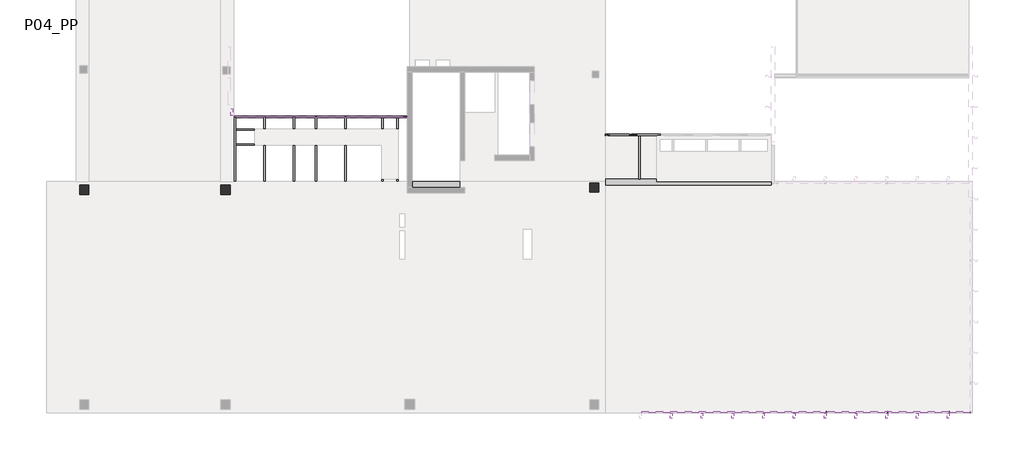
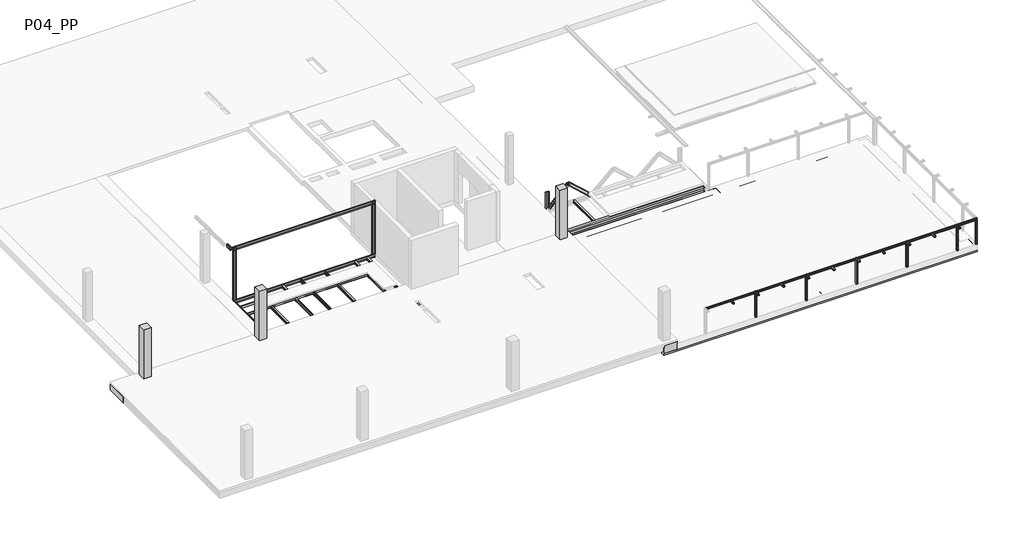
# One storey, part 2 of 5: 49 beams, 12 columns.
"""IFC4 building model written with IfcOpenShell, lengths in millimetres."""

from ifc_helpers import new_model, si_unit, frame, origin, place, context, project, spatial, polyline, outline, extrude, faceted_brep, transform, mapped, element, save
from components import m_hss_rectangular_hss_100x100_d88e7f3c, m_hss_rectangular_hss_100x100_c4b29c07, m_hss_rectangular_hss_200x100_80d761ef, ub_universal_beams_heb300x300_9e54a293, ub_universal_beams_ipe_160x82_5295c27c, ub_universal_beams_ipe_160x82_633517aa, ub_universal_beams_ipe_160x82_7de70bc2, upn120x55_69f0bca1, upn120x55_efc8f615, upn120x55_2e91fe93, upn120x55_dd576345, upn120x55_d7d90911, upn200x75_1e45fa6e, upn200x75_a6df8eeb, upn200x75_f16fdd2e, upn200x75_1c3169bc, rhs_rectangular_hollow_section_column_100x100x5_0rhs_4e292c9f, upn_200x75_6854b640, upn_200x75_6a680606

model = new_model("IFC4")

# Units and contexts
model_context = context("Model", 3, world=origin())
ifc_project = project(units=[si_unit("LENGTHUNIT", "METRE", prefix="MILLI")], contexts=[model_context])

# Site, building, storey
site = spatial("IfcSite", under=ifc_project)
building = spatial("IfcBuilding", under=site)
storey = spatial("IfcBuildingStorey", under=building, Name="P04_PP", Elevation=22410.0)

# Beams
placement = place(None, origin())
element("IfcBeam", 1, ObjectType="M_Concrete-Rectangular Beam : 1500 x 550mm", at=placement, inside=storey, context=model_context, shape_type="Brep", body=[
    faceted_brep([(-10790.2146087, -4560.5861501, 22410.0), (-13390.3216429, -4560.5861501, 22410.0), (-13390.3216429, -4885.1039312, 22410.0), (-10790.2146087, -4885.1039312, 22410.0), (-33190.2931069, -6060.5861501, 21860.0), (-32490.2931069, -6060.5861501, 21860.0), (-31216.2708024, -6060.5861501, 21860.0), (-30816.2708024, -6060.5861501, 21860.0), (-29549.6041367, -6060.5861501, 21860.0), (-29149.6041367, -6060.5861501, 21860.0), (-27882.9374731, -6060.5861501, 21860.0), (-27482.9374731, -6060.5861501, 21860.0), (-26216.2708089, -6060.5861501, 21860.0), (-25816.2708089, -6060.5861501, 21860.0), (-24549.6041453, -6060.5861501, 21860.0), (-24149.6041453, -6060.5861501, 21860.0), (-22882.9374805, -6060.5861501, 21860.0), (-22482.9374805, -6060.5861501, 21860.0), (-21216.2708168, -6060.5861501, 21860.0), (-20816.2708168, -6060.5861501, 21860.0), (-19549.6041539, -6060.5861501, 21860.0), (-19149.6041539, -6060.5861501, 21860.0), (-17882.9374898, -6060.5861501, 21860.0), (-17482.9374898, -6060.5861501, 21860.0), (-16216.2708252, -6060.5861501, 21860.0), (-15816.2708252, -6060.5861501, 21860.0), (-14549.604161, -6060.5861501, 21860.0), (-14149.604161, -6060.5861501, 21860.0), (-12882.9374977, -6060.5861501, 21860.0), (-12482.9374977, -6060.5861501, 21860.0), (-11216.2708336, -6060.5861501, 21860.0), (-10816.2708336, -6060.5861501, 21860.0), (-9549.6041702, -6060.5861501, 21860.0), (-9149.6041702, -6060.5861501, 21860.0), (-7882.9375051, -6060.5861501, 21860.0), (-7482.9375051, -6060.5861501, 21860.0), (-6216.2708415, -6060.5861501, 21860.0), (-5816.2708415, -6060.5861501, 21860.0), (-4549.6041777, -6060.5861501, 21860.0), (-4149.6041777, -6060.5861501, 21860.0), (-3763.6636999, -6060.5861501, 21860.0), (-2913.6343046, -6060.5861501, 21860.0), (-2913.6343046, -6060.5861501, 22260.0), (-3763.6636999, -6060.5861501, 22260.0), (-4149.6041777, -6060.5861501, 22260.0), (-4549.6041777, -6060.5861501, 22260.0), (-5816.2708415, -6060.5861501, 22260.0), (-6216.2708415, -6060.5861501, 22260.0), (-7482.9375051, -6060.5861501, 22260.0), (-7882.9375051, -6060.5861501, 22260.0), (-9149.6041702, -6060.5861501, 22260.0), (-9549.6041702, -6060.5861501, 22260.0), (-10816.2708336, -6060.5861501, 22260.0), (-11216.2708336, -6060.5861501, 22260.0), (-12482.9374977, -6060.5861501, 22260.0), (-12882.9374977, -6060.5861501, 22260.0), (-14149.604161, -6060.5861501, 22260.0), (-14549.604161, -6060.5861501, 22260.0), (-15816.2708252, -6060.5861501, 22260.0), (-16216.2708252, -6060.5861501, 22260.0), (-17482.9374898, -6060.5861501, 22260.0), (-17882.9374898, -6060.5861501, 22260.0), (-19149.6041539, -6060.5861501, 22260.0), (-19549.6041539, -6060.5861501, 22260.0), (-20816.2708168, -6060.5861501, 22260.0), (-21216.2708168, -6060.5861501, 22260.0), (-22482.9374805, -6060.5861501, 22260.0), (-22882.9374805, -6060.5861501, 22260.0), (-24149.6041453, -6060.5861501, 22260.0), (-24549.6041453, -6060.5861501, 22260.0), (-25816.2708089, -6060.5861501, 22260.0), (-26216.2708089, -6060.5861501, 22260.0), (-27482.9374731, -6060.5861501, 22260.0), (-27882.9374731, -6060.5861501, 22260.0), (-29149.6041367, -6060.5861501, 22260.0), (-29549.6041367, -6060.5861501, 22260.0), (-30816.2708024, -6060.5861501, 22260.0), (-31216.2708024, -6060.5861501, 22260.0), (-32490.2931069, -6060.5861501, 22260.0), (-33190.2931069, -6060.5861501, 22260.0), (-33190.2931069, -4560.5861501, 21860.0), (-13640.3216429, -4560.5861501, 21860.0), (-13640.3216429, -5185.1039323, 21860.0), (-10540.3248425, -5185.1039323, 21860.0), (-10540.3248425, -4885.1039323, 21860.0), (-13390.3216429, -4885.1039323, 21860.0), (-13390.3216429, -4560.5861501, 21860.0), (-3816.6336941, -4560.5861501, 21860.0), (-3816.6336941, -5260.5861501, 21860.0), (-2913.6343046, -5260.5861501, 21860.0), (-23241.1836358, -5310.5863897, 21860.0), (-23241.1836357, -4760.5863897, 21860.0), (-23791.1836357, -4760.5863896, 21860.0), (-23791.1836358, -5310.5863896, 21860.0), (-30841.2256035, -5310.5863916, 21860.0), (-30841.2256052, -4760.5863916, 21860.0), (-31391.2256052, -4760.5863933, 21860.0), (-31391.2256035, -5310.5863933, 21860.0), (-13390.3216429, -4560.5861501, 22110.0542339), (-13640.3216429, -4560.5861501, 22110.0542339), (-33190.2931069, -4560.5861501, 22260.0), (-13390.3216429, -4560.5861501, 22260.0), (-10790.2146087, -4560.5861501, 22260.0), (-2913.6343046, -4560.5861501, 22260.0), (-2913.6343046, -4560.5861501, 22110.0), (-3763.6343046, -4560.5861501, 22110.0), (-3816.6336941, -4560.5861501, 22110.0), (-3816.6336937, -5260.5861501, 22110.0), (-3816.6336945, -4610.3980176, 22110.0), (-3816.6336939, -5160.3980176, 22110.0), (-2913.6343046, -5260.5861501, 22110.0), (-3763.6636999, -5260.5861501, 22110.0), (-23241.1836358, -5310.5863897, 22110.0), (-23241.1836357, -4760.5863897, 22110.0), (-23791.1836358, -5310.5863896, 22110.0), (-23791.1836357, -4760.5863896, 22110.0), (-30841.2256035, -5310.5863916, 22110.0), (-30841.2256052, -4760.5863916, 22110.0), (-31391.2256035, -5310.5863933, 22110.0), (-31391.2256052, -4760.5863933, 22110.0), (-10540.3248425, -4885.1039323, 22110.0542339), (-13390.3216429, -4885.1039323, 22110.0542339), (-13640.3216429, -5185.1039323, 22110.0542339), (-10540.3248425, -5185.1039323, 22110.0542339), (-13640.3216429, -4885.1039323, 22110.0542339), (-13390.3216429, -4885.1039312, 22260.0), (-10790.2146087, -4885.1039312, 22260.0)], [[[0, 1, 2, 3]], [[4, 5, 6, 7, 8, 9, 10, 11, 12, 13, 14, 15, 16, 17, 18, 19, 20, 21, 22, 23, 24, 25, 26, 27, 28, 29, 30, 31, 32, 33, 34, 35, 36, 37, 38, 39, 40, 41, 42, 43, 44, 45, 46, 47, 48, 49, 50, 51, 52, 53, 54, 55, 56, 57, 58, 59, 60, 61, 62, 63, 64, 65, 66, 67, 68, 69, 70, 71, 72, 73, 74, 75, 76, 77, 78, 79]], [[4, 80, 81, 82, 83, 84, 85, 86, 87, 88, 89, 41, 40, 39, 38, 37, 36, 35, 34, 33, 32, 31, 30, 29, 28, 27, 26, 25, 24, 23, 22, 21, 20, 19, 18, 17, 16, 15, 14, 13, 12, 11, 10, 9, 8, 7, 6, 5], [90, 91, 92, 93], [94, 95, 96, 97]], [[86, 98, 99, 81, 80, 100, 101, 1, 0, 102, 103, 104, 105, 106, 87]], [[80, 4, 79, 100]], [[107, 88, 87, 106, 108, 109]], [[106, 105, 104, 110, 111, 107, 109, 108]], [[112, 113, 91, 90]], [[114, 112, 90, 93]], [[115, 114, 93, 92]], [[113, 115, 92, 91]], [[113, 112, 114, 115]], [[116, 117, 95, 94]], [[118, 116, 94, 97]], [[119, 118, 97, 96]], [[117, 119, 96, 95]], [[117, 116, 118, 119]], [[84, 120, 121, 85]], [[122, 123, 83, 82]], [[123, 122, 124, 99, 98, 121, 120]], [[123, 120, 84, 83]], [[122, 82, 81, 99, 124]], [[121, 98, 86, 85]], [[41, 89, 110, 104, 103, 42]], [[89, 88, 107, 111, 110]], [[125, 101, 100, 79, 78, 77, 76, 75, 74, 73, 72, 71, 70, 69, 68, 67, 66, 65, 64, 63, 62, 61, 60, 59, 58, 57, 56, 55, 54, 53, 52, 51, 50, 49, 48, 47, 46, 45, 44, 43, 42, 103, 102, 126]], [[126, 102, 0, 3]], [[101, 125, 2, 1]], [[125, 126, 3, 2]]]),
])
element("IfcBeam", 2, ObjectType="M_Concrete-Rectangular Beam : 400 x 550mm", at=placement, inside=storey, context=model_context, shape_type="SweptSolid", body=[
    extrude(outline(polyline([(-16216.2708252, -6060.5861501), (-15816.2708252, -6060.5861501), (-15816.2708252, -15610.5871866), (-16216.2708252, -15610.5871866), (-16216.2708252, -6060.5861501)])), frame((0.0, 0.0, 21860.0), z_axis=(0.0, 0.0, 1.0), x_axis=(1.0, 0.0, 0.0)), (0.0, 0.0, 1.0), 400.0),
])
element("IfcBeam", 3, ObjectType="M_Concrete-Rectangular Beam : 400 x 550mm", at=placement, inside=storey, context=model_context, shape_type="SweptSolid", body=[
    extrude(outline(polyline([(-14549.604161, -6060.5861501), (-14149.604161, -6060.5861501), (-14149.604161, -15610.5871866), (-14549.604161, -15610.5871866), (-14549.604161, -6060.5861501)])), frame((0.0, 0.0, 21860.0), z_axis=(0.0, 0.0, 1.0), x_axis=(1.0, 0.0, 0.0)), (0.0, 0.0, 1.0), 400.0),
])
element("IfcBeam", 4, ObjectType="M_Concrete-Rectangular Beam : 400 x 550mm", at=placement, inside=storey, context=model_context, shape_type="SweptSolid", body=[
    extrude(outline(polyline([(-12882.9374977, -6060.5861501), (-12482.9374977, -6060.5861501), (-12482.9374977, -15610.5871866), (-12882.9374977, -15610.5871866), (-12882.9374977, -6060.5861501)])), frame((0.0, 0.0, 21860.0), z_axis=(0.0, 0.0, 1.0), x_axis=(1.0, 0.0, 0.0)), (0.0, 0.0, 1.0), 400.0),
])
element("IfcBeam", 5, ObjectType="M_Concrete-Rectangular Beam : 400 x 550mm", at=placement, inside=storey, context=model_context, shape_type="SweptSolid", body=[
    extrude(outline(polyline([(-11216.2708336, -6060.5861501), (-10816.2708336, -6060.5861501), (-10816.2708336, -15610.5871866), (-11216.2708336, -15610.5871866), (-11216.2708336, -6060.5861501)])), frame((0.0, 0.0, 21860.0), z_axis=(0.0, 0.0, 1.0), x_axis=(1.0, 0.0, 0.0)), (0.0, 0.0, 1.0), 400.0),
])
element("IfcBeam", 6, ObjectType="M_Concrete-Rectangular Beam : 400 x 550mm", at=placement, inside=storey, context=model_context, shape_type="SweptSolid", body=[
    extrude(outline(polyline([(-9549.6041702, -6060.5861501), (-9149.6041702, -6060.5861501), (-9149.6041702, -15610.5871866), (-9549.6041702, -15610.5871866), (-9549.6041702, -6060.5861501)])), frame((0.0, 0.0, 21860.0), z_axis=(0.0, 0.0, 1.0), x_axis=(1.0, 0.0, 0.0)), (0.0, 0.0, 1.0), 400.0),
])
element("IfcBeam", 7, ObjectType="M_Concrete-Rectangular Beam : 400 x 550mm", at=placement, inside=storey, context=model_context, shape_type="SweptSolid", body=[
    extrude(outline(polyline([(-7882.9375051, -6060.5861501), (-7482.9375051, -6060.5861501), (-7482.9375051, -15610.5871866), (-7882.9375051, -15610.5871866), (-7882.9375051, -6060.5861501)])), frame((0.0, 0.0, 21860.0), z_axis=(0.0, 0.0, 1.0), x_axis=(1.0, 0.0, 0.0)), (0.0, 0.0, 1.0), 400.0),
])
element("IfcBeam", 8, ObjectType="M_Concrete-Rectangular Beam : 400 x 550mm", at=placement, inside=storey, context=model_context, shape_type="SweptSolid", body=[
    extrude(outline(polyline([(-6216.2708415, -6060.5861501), (-5816.2708415, -6060.5861501), (-5816.2708415, -15610.5871866), (-6216.2708415, -15610.5871866), (-6216.2708415, -6060.5861501)])), frame((0.0, 0.0, 21860.0), z_axis=(0.0, 0.0, 1.0), x_axis=(1.0, 0.0, 0.0)), (0.0, 0.0, 1.0), 400.0),
])
element("IfcBeam", 9, ObjectType="M_Concrete-Rectangular Beam : 400 x 550mm", at=placement, inside=storey, context=model_context, shape_type="SweptSolid", body=[
    extrude(outline(polyline([(-4549.6041777, -6060.5861501), (-4149.6041777, -6060.5861501), (-4149.6041777, -15610.5871866), (-4549.6041777, -15610.5871866), (-4549.6041777, -6060.5861501)])), frame((0.0, 0.0, 21860.0), z_axis=(0.0, 0.0, 1.0), x_axis=(1.0, 0.0, 0.0)), (0.0, 0.0, 1.0), 400.0),
])
element("IfcBeam", 10, ObjectType="M_Concrete-Rectangular Beam : 700 x 500mm", at=placement, inside=storey, context=model_context, shape_type="Brep", body=[
    faceted_brep([(-3816.6336782, -17110.5871866, 22110.0), (-3763.6636999, -17110.5871866, 22110.0), (-3763.6636999, -16910.5863397, 22110.0), (-3816.6336782, -16910.5863397, 22110.0), (-2913.6636999, -17110.5871866, 21710.0), (-3763.6636999, -17110.5871866, 21710.0), (-3816.6336782, -17110.5871866, 21860.0), (-3816.6336782, -17110.5871866, 21610.0), (16958.7687141, -17110.5871866, 21610.0), (16958.7687141, -17110.5871866, 22110.0), (-2913.6636999, -17110.5871866, 22110.0), (6734.6784228, -16910.586328, 21610.0), (6734.6784217, -16410.5871866, 21610.0), (16258.7685986, -16410.5871866, 21610.0), (16258.7685985, -16910.5878349, 21610.0), (16758.7685985, -16910.5878349, 21610.0), (16758.7685986, -16410.5871866, 21610.0), (16958.7687141, -16410.5871866, 21610.0), (-3816.6336782, -16910.5863397, 21610.0), (-3266.6336782, -16910.5863398, 21610.0), (-3266.6336781, -16410.5871866, 21610.0), (6234.6784217, -16410.5871866, 21610.0), (6234.6784228, -16910.5863291, 21610.0), (6234.6784217, -16410.5871866, 22110.0), (-3266.6336781, -16410.5871866, 21710.0), (-2913.6636999, -16410.5871866, 21710.0), (-2913.6636999, -16410.5871866, 22110.0), (6734.6784228, -16910.586328, 22110.0), (6734.6784217, -16410.5871866, 22110.0), (6234.6784228, -16910.5863291, 22110.0), (16258.7685986, -16410.5871866, 22110.0), (16258.7685985, -16910.5878349, 22110.0), (16758.7685985, -16910.5878349, 22110.0), (-3266.6336782, -16910.5863398, 21710.0), (-3763.6636999, -16910.5863397, 21710.0), (16958.7687141, -16410.5871866, 22110.0), (16758.7685986, -16410.5871866, 22110.0)], [[[0, 1, 2, 3]], [[4, 5, 1, 0, 6, 7, 8, 9, 10]], [[11, 12, 13, 14, 15, 16, 17, 8, 7, 18, 19, 20, 21, 22]], [[23, 21, 20, 24, 25, 26]], [[12, 11, 27, 28]], [[22, 21, 23, 29]], [[14, 13, 30, 31]], [[27, 11, 22, 29]], [[14, 31, 32, 15]], [[12, 28, 30, 13]], [[4, 25, 24, 33, 34, 5]], [[25, 4, 10, 26]], [[1, 5, 34, 2]], [[28, 27, 29, 23, 26, 10, 9, 35, 36, 32, 31, 30]], [[19, 33, 24, 20]], [[33, 19, 18, 3, 2, 34]], [[7, 6, 0, 3, 18]], [[35, 9, 8, 17]], [[15, 32, 36, 16]], [[35, 17, 16, 36]]]),
])
element("IfcBeam", 11, ObjectType="M_Concrete-Rectangular Beam : 700 x 500mm", at=placement, inside=storey, context=model_context, shape_type="Brep", body=[
    faceted_brep([(-3816.6336941, -4560.5861501, 22110.0), (-3816.6336941, -4610.3980176, 22110.0), (-3763.6636999, -4610.3980175, 22110.0), (-3763.6636999, -4560.5861501, 22110.0), (6258.8308537, -5260.5861501, 21610.0), (6258.8308537, -5260.5861501, 22110.0), (-2913.6636999, -5260.5861501, 22110.0), (-2913.6636999, -5260.5861501, 21710.0), (-3763.6636999, -5260.5861501, 21710.0), (-3763.6636999, -5260.5861501, 22110.0), (-3816.6336941, -5260.5861501, 22110.0), (-3816.6336941, -5260.5861501, 21860.0), (-3816.6336941, -5260.5861501, 21610.0), (16258.7687141, -4560.5861501, 21610.0), (16258.7687141, -4760.6066112, 21610.0), (16258.7687141, -5260.5861501, 21610.0), (6758.8308537, -5260.5861501, 21610.0), (6758.8308538, -4760.6051135, 21610.0), (6258.8308538, -4760.6051134, 21610.0), (-3816.6336941, -5160.3980176, 21610.0), (-3266.6336939, -5160.398017, 21610.0), (-3266.6336945, -4610.398017, 21610.0), (-3816.6336941, -4610.3980176, 21610.0), (-3816.6336941, -4560.5861501, 21610.0), (16258.7687141, -4560.5861501, 22110.0), (-3816.6336941, -4560.5861501, 21860.0), (-3763.6636999, -4560.5861501, 21860.0), (-3763.6636999, -4560.5861501, 21710.0), (-2913.6636999, -4560.5861501, 21710.0), (-2913.6636999, -4560.5861501, 21860.0), (-2913.6636999, -4560.5861501, 22110.0), (16258.7687141, -4760.6066112, 22110.0), (16258.7687141, -5260.5861501, 22110.0), (6758.8308537, -5260.5861501, 22110.0), (6758.8308538, -4760.6051135, 22110.0), (6258.8308538, -4760.6051134, 22110.0), (-3266.6336939, -5160.398017, 21710.0), (-3266.6336945, -4610.398017, 21710.0), (-3816.6336941, -5160.3980176, 22110.0), (-3763.6636999, -5160.3980175, 22110.0), (-3763.6635239, -5160.3980175, 21860.0), (-3763.6635239, -5160.3980175, 21710.0), (-3763.6636999, -4610.3980175, 21710.0), (-3763.6635239, -4610.3980175, 21860.0)], [[[0, 1, 2, 3]], [[4, 5, 6, 7, 8, 9, 10, 11, 12]], [[13, 14, 15, 16, 17, 18, 4, 12, 19, 20, 21, 22, 23]], [[24, 13, 23, 25, 0, 3, 26, 27, 28, 29, 30]], [[24, 31, 32, 15, 14, 13]], [[17, 16, 33, 34]], [[4, 18, 35, 5]], [[35, 18, 17, 34]], [[21, 20, 36, 37]], [[20, 19, 38, 39, 40, 41, 36]], [[22, 21, 37, 42, 43, 2, 1]], [[28, 7, 6, 30, 29]], [[15, 32, 33, 16]], [[7, 28, 27, 42, 37, 36, 41, 8]], [[42, 27, 26, 3, 2, 43]], [[38, 10, 9, 39]], [[32, 31, 24, 30, 6, 5, 35, 34, 33]], [[8, 41, 40, 39, 9]], [[0, 25, 23, 22, 1]], [[12, 11, 10, 38, 19]]]),
])
element("IfcBeam", 12, ObjectType="M_Concrete-Rectangular Beam : 850 x 700mm", at=placement, inside=storey, context=model_context, shape_type="Brep", body=[
    faceted_brep([(-3763.6636999, -4560.5861501, 21860.0), (-3763.6636999, -4560.5861501, 21710.0), (-3763.6636999, -4610.3980175, 21710.0), (-3763.6636999, -4610.3980175, 21860.0), (-2913.6636999, -4560.5861501, 21710.0), (-2913.6636999, -5260.5861501, 21710.0), (-2913.6636999, -16410.5871866, 21710.0), (-2913.6636999, -17110.5871866, 21710.0), (-3763.6636999, -17110.5871866, 21710.0), (-3763.6636999, -16910.5863397, 21710.0), (-3266.6336782, -16910.5863398, 21710.0), (-3266.6336781, -16410.5871866, 21710.0), (-3266.6336781, -16360.5863398, 21710.0), (-3763.6636999, -16360.5863397, 21710.0), (-3763.6636999, -5260.5861501, 21710.0), (-3763.6636999, -5160.3980175, 21710.0), (-3266.6336939, -5160.398017, 21710.0), (-3266.6336945, -4610.398017, 21710.0), (-2913.6636999, -4560.5861501, 21860.0), (-2913.6636999, -6060.5861501, 21860.0), (-2913.6636999, -6060.5861501, 22260.0), (-2913.6636999, -17110.5871866, 22260.0), (-2913.6636999, -17110.5871866, 22110.0), (-3763.6636999, -6060.5861501, 21860.0), (-3763.6636999, -6060.5861501, 22260.0), (-3266.6336945, -4610.398017, 21860.0), (-3266.6336939, -5160.398017, 21860.0), (-3763.6636999, -5160.3980175, 21860.0), (-3763.6636999, -16910.5863397, 22110.0), (-3266.6336782, -16910.5863398, 22110.0), (-3266.6336781, -16360.5863398, 22110.0), (-3763.6636999, -16360.5863397, 22110.0), (-3763.6636999, -16360.5863397, 21860.0), (-3763.6636999, -17110.5871866, 22260.0), (-3763.6636999, -17110.5871866, 22110.0), (-3763.6636999, -15610.5871866, 22260.0)], [[[0, 1, 2, 3]], [[1, 4, 5, 6, 7, 8, 9, 10, 11, 12, 13, 14, 15, 16, 17, 2]], [[18, 19, 20, 21, 22, 7, 6, 5, 4]], [[4, 1, 0, 18]], [[19, 23, 24, 20]], [[18, 0, 3, 25, 26, 27, 23, 19]], [[28, 29, 10, 9]], [[30, 31, 32, 13, 12]], [[30, 29, 28, 31]], [[8, 7, 22, 21, 33, 34]], [[16, 15, 27, 26]], [[2, 17, 25, 3]], [[29, 30, 12, 11, 10]], [[25, 17, 16, 26]], [[9, 8, 34, 33, 35, 24, 23, 27, 15, 14, 13, 32, 31, 28]], [[21, 20, 24, 35, 33]]]),
])
m_hss_rectangular_hss_100x100_shape = m_hss_rectangular_hss_100x100_d88e7f3c(model_context)
element("IfcBeam", 13, ObjectType="M_HSS Rectangular : HSS 100x100", at=placement, inside=storey, context=model_context, shape_type="MappedRepresentation", body=[
    mapped(m_hss_rectangular_hss_100x100_shape, transform((7946.7216588, -17060.5808776, 23860.0), x_axis=(0.9999999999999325, -3.676253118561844e-07, 0.0), y_axis=(3.676253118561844e-07, 0.9999999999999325, 0.0), z_axis=(0.0, 0.0, 1.0))),
])
m_hss_rectangular_hss_100x100_2_shape = m_hss_rectangular_hss_100x100_c4b29c07(model_context)
element("IfcBeam", 14, ObjectType="M_HSS Rectangular : HSS 100x100", at=placement, inside=storey, context=model_context, shape_type="MappedRepresentation", body=[
    mapped(m_hss_rectangular_hss_100x100_2_shape, transform((15651.3929722, -17225.5845792, 23860.0), x_axis=(1.2959202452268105e-06, -0.9999999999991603, 0.0), y_axis=(0.9999999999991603, 1.2959202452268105e-06, 0.0), z_axis=(0.0, 0.0, 1.0))),
])
element("IfcBeam", 15, ObjectType="M_HSS Rectangular : HSS 100x100", at=placement, inside=storey, context=model_context, shape_type="MappedRepresentation", body=[
    mapped(m_hss_rectangular_hss_100x100_2_shape, transform((12318.0506883, -17225.5845792, 23860.0), x_axis=(1.2959202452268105e-06, -0.9999999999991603, 0.0), y_axis=(0.9999999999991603, 1.2959202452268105e-06, 0.0), z_axis=(0.0, 0.0, 1.0))),
])
element("IfcBeam", 16, ObjectType="M_HSS Rectangular : HSS 100x100", at=placement, inside=storey, context=model_context, shape_type="MappedRepresentation", body=[
    mapped(m_hss_rectangular_hss_100x100_2_shape, transform((8984.7084045, -17225.5845792, 23860.0), x_axis=(1.2959202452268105e-06, -0.9999999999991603, 0.0), y_axis=(0.9999999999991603, 1.2959202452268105e-06, 0.0), z_axis=(0.0, 0.0, 1.0))),
])
element("IfcBeam", 17, ObjectType="M_HSS Rectangular : HSS 100x100", at=placement, inside=storey, context=model_context, shape_type="MappedRepresentation", body=[
    mapped(m_hss_rectangular_hss_100x100_2_shape, transform((5651.3661206, -17225.5845792, 23860.0), x_axis=(1.2959202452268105e-06, -0.9999999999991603, 0.0), y_axis=(0.9999999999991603, 1.2959202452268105e-06, 0.0), z_axis=(0.0, 0.0, 1.0))),
])
element("IfcBeam", 18, ObjectType="M_HSS Rectangular : HSS 100x100", at=placement, inside=storey, context=model_context, shape_type="MappedRepresentation", body=[
    mapped(m_hss_rectangular_hss_100x100_2_shape, transform((2318.0238368, -17225.5845792, 23860.0), x_axis=(1.2959202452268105e-06, -0.9999999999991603, 0.0), y_axis=(0.9999999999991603, 1.2959202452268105e-06, 0.0), z_axis=(0.0, 0.0, 1.0))),
])
element("IfcBeam", 19, ObjectType="M_HSS Rectangular : HSS 100x100", at=placement, inside=storey, context=model_context, shape_type="MappedRepresentation", body=[
    mapped(m_hss_rectangular_hss_100x100_2_shape, transform((13984.7218302, -17225.5845792, 23860.0), x_axis=(1.2959202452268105e-06, -0.9999999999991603, 0.0), y_axis=(0.9999999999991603, 1.2959202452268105e-06, 0.0), z_axis=(0.0, 0.0, 1.0))),
])
element("IfcBeam", 20, ObjectType="M_HSS Rectangular : HSS 100x100", at=placement, inside=storey, context=model_context, shape_type="MappedRepresentation", body=[
    mapped(m_hss_rectangular_hss_100x100_2_shape, transform((10651.3795464, -17225.5845792, 23860.0), x_axis=(1.2959202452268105e-06, -0.9999999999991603, 0.0), y_axis=(0.9999999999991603, 1.2959202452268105e-06, 0.0), z_axis=(0.0, 0.0, 1.0))),
])
element("IfcBeam", 21, ObjectType="M_HSS Rectangular : HSS 100x100", at=placement, inside=storey, context=model_context, shape_type="MappedRepresentation", body=[
    mapped(m_hss_rectangular_hss_100x100_2_shape, transform((7318.0372626, -17225.5845792, 23860.0), x_axis=(1.2959202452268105e-06, -0.9999999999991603, 0.0), y_axis=(0.9999999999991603, 1.2959202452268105e-06, 0.0), z_axis=(0.0, 0.0, 1.0))),
])
element("IfcBeam", 22, ObjectType="M_HSS Rectangular : HSS 100x100", at=placement, inside=storey, context=model_context, shape_type="MappedRepresentation", body=[
    mapped(m_hss_rectangular_hss_100x100_2_shape, transform((3984.6949787, -17225.5845792, 23860.0), x_axis=(1.2959202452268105e-06, -0.9999999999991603, 0.0), y_axis=(0.9999999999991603, 1.2959202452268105e-06, 0.0), z_axis=(0.0, 0.0, 1.0))),
])
element("IfcBeam", 23, ObjectType="M_HSS Rectangular : HSS 100x100", at=placement, inside=storey, context=model_context, shape_type="MappedRepresentation", body=[
    mapped(m_hss_rectangular_hss_100x100_2_shape, transform((651.3526949, -17225.5845792, 23860.0), x_axis=(1.2959202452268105e-06, -0.9999999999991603, 0.0), y_axis=(0.9999999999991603, 1.2959202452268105e-06, 0.0), z_axis=(0.0, 0.0, 1.0))),
])
m_hss_rectangular_hss_200x100_shape = m_hss_rectangular_hss_200x100_80d761ef(model_context)
element("IfcBeam", 24, ObjectType="M_HSS Rectangular : HSS 200x100", at=placement, inside=storey, context=model_context, shape_type="MappedRepresentation", body=[
    mapped(m_hss_rectangular_hss_200x100_shape, transform((-23160.3171618, -812.6043939, 26060.0), x_axis=(0.0, -1.0, 0.0), y_axis=(1.0, 0.0, 0.0), z_axis=(0.0, 0.0, 1.0))),
])
ub_universal_beams_heb300x300_shape = ub_universal_beams_heb300x300_9e54a293(model_context)
element("IfcBeam", 25, ObjectType="UB-Universal Beams : HEB300x300", at=placement, inside=storey, context=model_context, shape_type="MappedRepresentation", body=[
    mapped(ub_universal_beams_heb300x300_shape, transform((1360.0966728, -4590.5861501, 22260.0), x_axis=(-1.0, 0.0, 0.0), y_axis=(0.0, -1.0, 0.0), z_axis=(0.0, 0.0, 1.0))),
])
ub_universal_beams_ipe_160x82_shape = ub_universal_beams_ipe_160x82_5295c27c(model_context)
element("IfcBeam", 26, ObjectType="UB-Universal Beams : IPE 160x82", at=placement, inside=storey, context=model_context, shape_type="MappedRepresentation", body=[
    mapped(ub_universal_beams_ipe_160x82_shape, transform((-14190.4459331, -3192.6367352, 22330.0), x_axis=(0.0, 1.0, 0.0), y_axis=(-1.0, 0.0, 0.0), z_axis=(0.0, 0.0, 1.0))),
])
element("IfcBeam", 27, ObjectType="UB-Universal Beams : IPE 160x82", at=placement, inside=storey, context=model_context, shape_type="MappedRepresentation", body=[
    mapped(ub_universal_beams_ipe_160x82_shape, transform((-14990.4459326, -3192.6367225, 22330.0), x_axis=(0.0, 1.0, 0.0), y_axis=(-1.0, 0.0, 0.0), z_axis=(0.0, 0.0, 1.0))),
])
element("IfcBeam", 28, ObjectType="UB-Universal Beams : IPE 160x82", at=placement, inside=storey, context=model_context, shape_type="MappedRepresentation", body=[
    mapped(ub_universal_beams_ipe_160x82_shape, transform((-16990.4459316, -3192.6366908, 22330.0), x_axis=(0.0, 1.0, 0.0), y_axis=(-1.0, 0.0, 0.0), z_axis=(0.0, 0.0, 1.0))),
])
element("IfcBeam", 29, ObjectType="UB-Universal Beams : IPE 160x82", at=placement, inside=storey, context=model_context, shape_type="MappedRepresentation", body=[
    mapped(ub_universal_beams_ipe_160x82_shape, transform((-18590.4459308, -3192.6366654, 22330.0), x_axis=(0.0, 1.0, 0.0), y_axis=(-1.0, 0.0, 0.0), z_axis=(0.0, 0.0, 1.0))),
])
element("IfcBeam", 30, ObjectType="UB-Universal Beams : IPE 160x82", at=placement, inside=storey, context=model_context, shape_type="MappedRepresentation", body=[
    mapped(ub_universal_beams_ipe_160x82_shape, transform((-19790.4459314, -3192.6366464, 22330.0), x_axis=(0.0, 1.0, 0.0), y_axis=(-1.0, 0.0, 0.0), z_axis=(0.0, 0.0, 1.0))),
])
element("IfcBeam", 31, ObjectType="UB-Universal Beams : IPE 160x82", at=placement, inside=storey, context=model_context, shape_type="MappedRepresentation", body=[
    mapped(ub_universal_beams_ipe_160x82_shape, transform((-21390.4459306, -3192.636621, 22330.0), x_axis=(0.0, 1.0, 0.0), y_axis=(-1.0, 0.0, 0.0), z_axis=(0.0, 0.0, 1.0))),
])
ub_universal_beams_ipe_160x82_2_shape = ub_universal_beams_ipe_160x82_633517aa(model_context)
element("IfcBeam", 32, ObjectType="UB-Universal Beams : IPE 160x82", at=placement, inside=storey, context=model_context, shape_type="MappedRepresentation", body=[
    mapped(ub_universal_beams_ipe_160x82_2_shape, transform((-22991.1860553, -3192.6365957, 22330.0), x_axis=(0.0, 1.0, 0.0), y_axis=(-1.0, 0.0, 0.0), z_axis=(0.0, 0.0, 1.0))),
])
ub_universal_beams_ipe_160x82_3_shape = ub_universal_beams_ipe_160x82_7de70bc2(model_context)
element("IfcBeam", 33, ObjectType="UB-Universal Beams : IPE 160x82", at=placement, inside=storey, context=model_context, shape_type="MappedRepresentation", body=[
    mapped(ub_universal_beams_ipe_160x82_3_shape, transform((-1067.7389197, -3333.1913864, 22330.0), x_axis=(3.499064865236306e-06, 0.9999999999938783, 0.0), y_axis=(-0.9999999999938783, 3.499064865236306e-06, 0.0), z_axis=(0.0, 0.0, 1.0))),
])
upn120x55_shape = upn120x55_69f0bca1(model_context)
element("IfcBeam", 34, ObjectType="M_MC Shapes : UPN120x55", at=placement, inside=storey, context=model_context, shape_type="MappedRepresentation", body=[
    mapped(upn120x55_shape, transform((-14590.4459328, -1772.1875003, 22350.0), x_axis=(0.9999999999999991, -4.319868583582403e-08, 0.0), y_axis=(4.319868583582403e-08, 0.9999999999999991, 0.0), z_axis=(0.0, 0.0, 1.0))),
])
element("IfcBeam", 35, ObjectType="M_MC Shapes : UPN120x55", at=placement, inside=storey, context=model_context, shape_type="MappedRepresentation", body=[
    mapped(upn120x55_shape, transform((-14590.4459328, -2572.1874803, 22350.0), x_axis=(0.9999999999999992, -4.0441322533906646e-08, 0.0), y_axis=(4.0441322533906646e-08, 0.9999999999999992, 0.0), z_axis=(0.0, 0.0, 1.0))),
])
upn120x55_2_shape = upn120x55_efc8f615(model_context)
element("IfcBeam", 36, ObjectType="M_MC Shapes : UPN120x55", at=placement, inside=storey, context=model_context, shape_type="MappedRepresentation", body=[
    mapped(upn120x55_2_shape, transform((-15990.4459321, -2572.1874237, 22350.0), x_axis=(0.9999999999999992, -4.0441322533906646e-08, 0.0), y_axis=(4.0441322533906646e-08, 0.9999999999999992, 0.0), z_axis=(0.0, 0.0, 1.0))),
])
element("IfcBeam", 37, ObjectType="M_MC Shapes : UPN120x55", at=placement, inside=storey, context=model_context, shape_type="MappedRepresentation", body=[
    mapped(upn120x55_2_shape, transform((-15990.4459321, -1772.1874398, 22350.0), x_axis=(0.9999999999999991, -4.319868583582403e-08, 0.0), y_axis=(4.319868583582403e-08, 0.9999999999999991, 0.0), z_axis=(0.0, 0.0, 1.0))),
])
upn120x55_3_shape = upn120x55_2e91fe93(model_context)
element("IfcBeam", 38, ObjectType="M_MC Shapes : UPN120x55", at=placement, inside=storey, context=model_context, shape_type="MappedRepresentation", body=[
    mapped(upn120x55_3_shape, transform((-20590.445931, -2572.1872377, 22350.0), x_axis=(0.9999999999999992, -4.0441322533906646e-08, 0.0), y_axis=(4.0441322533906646e-08, 0.9999999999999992, 0.0), z_axis=(0.0, 0.0, 1.0))),
])
element("IfcBeam", 39, ObjectType="M_MC Shapes : UPN120x55", at=placement, inside=storey, context=model_context, shape_type="MappedRepresentation", body=[
    mapped(upn120x55_3_shape, transform((-17790.4459312, -2572.1873509, 22350.0), x_axis=(0.9999999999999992, -4.0441322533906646e-08, 0.0), y_axis=(4.0441322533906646e-08, 0.9999999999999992, 0.0), z_axis=(0.0, 0.0, 1.0))),
])
element("IfcBeam", 40, ObjectType="M_MC Shapes : UPN120x55", at=placement, inside=storey, context=model_context, shape_type="MappedRepresentation", body=[
    mapped(upn120x55_3_shape, transform((-20590.445931, -1772.1872411, 22350.0), x_axis=(0.9999999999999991, -4.319868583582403e-08, 0.0), y_axis=(4.319868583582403e-08, 0.9999999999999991, 0.0), z_axis=(0.0, 0.0, 1.0))),
])
element("IfcBeam", 41, ObjectType="M_MC Shapes : UPN120x55", at=placement, inside=storey, context=model_context, shape_type="MappedRepresentation", body=[
    mapped(upn120x55_3_shape, transform((-17790.4459312, -1772.1873621, 22350.0), x_axis=(0.9999999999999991, -4.319868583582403e-08, 0.0), y_axis=(4.319868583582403e-08, 0.9999999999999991, 0.0), z_axis=(0.0, 0.0, 1.0))),
])
upn120x55_4_shape = upn120x55_dd576345(model_context)
element("IfcBeam", 42, ObjectType="M_MC Shapes : UPN120x55", at=placement, inside=storey, context=model_context, shape_type="MappedRepresentation", body=[
    mapped(upn120x55_4_shape, transform((-19190.4459311, -2572.1872943, 22350.0), x_axis=(0.9999999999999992, -4.0441322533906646e-08, 0.0), y_axis=(4.0441322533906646e-08, 0.9999999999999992, 0.0), z_axis=(0.0, 0.0, 1.0))),
])
element("IfcBeam", 43, ObjectType="M_MC Shapes : UPN120x55", at=placement, inside=storey, context=model_context, shape_type="MappedRepresentation", body=[
    mapped(upn120x55_4_shape, transform((-19190.4459311, -1772.1873016, 22350.0), x_axis=(0.9999999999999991, -4.319868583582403e-08, 0.0), y_axis=(4.319868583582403e-08, 0.9999999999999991, 0.0), z_axis=(0.0, 0.0, 1.0))),
])
upn120x55_5_shape = upn120x55_d7d90911(model_context)
element("IfcBeam", 44, ObjectType="M_MC Shapes : UPN120x55", at=placement, inside=storey, context=model_context, shape_type="MappedRepresentation", body=[
    mapped(upn120x55_5_shape, transform((-22165.4459321, -2572.187174, 22350.0), x_axis=(0.9999999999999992, -4.0441322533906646e-08, 0.0), y_axis=(4.0441322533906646e-08, 0.9999999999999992, 0.0), z_axis=(0.0, 0.0, 1.0))),
])
element("IfcBeam", 45, ObjectType="M_MC Shapes : UPN120x55", at=placement, inside=storey, context=model_context, shape_type="MappedRepresentation", body=[
    mapped(upn120x55_5_shape, transform((-22165.4459321, -1772.1871731, 22350.0), x_axis=(0.9999999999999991, -4.319868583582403e-08, 0.0), y_axis=(4.319868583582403e-08, 0.9999999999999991, 0.0), z_axis=(0.0, 0.0, 1.0))),
])
upn200x75_shape = upn200x75_1e45fa6e(model_context)
element("IfcBeam", 46, ObjectType="M_MC Shapes : UPN200x75", at=placement, inside=storey, context=model_context, shape_type="MappedRepresentation", body=[
    mapped(upn200x75_shape, transform((-18278.251786, -1021.487191, 26060.0), x_axis=(0.9999999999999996, -3.175673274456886e-08, 0.0), y_axis=(3.175673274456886e-08, 0.9999999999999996, 0.0), z_axis=(0.0, 0.0, 1.0))),
])
upn200x75_2_shape = upn200x75_a6df8eeb(model_context)
element("IfcBeam", 47, ObjectType="M_MC Shapes : UPN200x75", at=placement, inside=storey, context=model_context, shape_type="MappedRepresentation", body=[
    mapped(upn200x75_2_shape, transform((-18453.2517869, -1021.4871854, 22310.0), x_axis=(0.9999999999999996, -3.175673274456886e-08, 0.0), y_axis=(3.175673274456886e-08, 0.9999999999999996, 0.0), z_axis=(0.0, 0.0, 1.0))),
])
upn200x75_3_shape = upn200x75_f16fdd2e(model_context)
element("IfcBeam", 48, ObjectType="M_MC Shapes : UPN200x75", at=placement, inside=storey, context=model_context, shape_type="MappedRepresentation", body=[
    mapped(upn200x75_3_shape, transform((-2095.0763216, -2010.7318546, 23005.5070049), x_axis=(-0.7135639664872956, -1.1791232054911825e-08, -0.7005900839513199), y_axis=(-1.652441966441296e-08, 0.9999999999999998, 0.0), z_axis=(0.7005900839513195, 1.157684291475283e-08, -0.713563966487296))),
])
upn200x75_4_shape = upn200x75_1c3169bc(model_context)
element("IfcBeam", 49, ObjectType="M_MC Shapes : UPN200x75", at=placement, inside=storey, context=model_context, shape_type="MappedRepresentation", body=[
    mapped(upn200x75_4_shape, transform((-678.4630518, -2010.7318519, 22985.0000184), x_axis=(0.7432941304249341, -1.1573284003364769e-08, -0.6689647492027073), y_axis=(-1.5570263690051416e-08, -1.0, 0.0), z_axis=(-0.6689647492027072, 1.0415959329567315e-08, -0.7432941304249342))),
])

# Columns
element("IfcColumn", 50, ObjectType="Concrete-Rectangular-Column : Pilar_Rectangular-Formigo-500x500", at=placement, inside=storey, context=model_context, shape_type="Brep", body=[
    faceted_brep([(-3266.6679235, -4635.4168883, 22410.0), (-3266.6679242, -5135.4168883, 22410.0), (-3766.6679242, -5135.4168876, 22410.0), (-3766.6679235, -4635.4168876, 22410.0), (-3266.6679235, -4635.4168883, 25860.0), (-3266.6679242, -5135.4168883, 25860.0), (-3266.6679242, -5135.4168883, 25610.0), (-3266.6679235, -4635.4168883, 25610.0), (-3766.6679242, -5135.4168876, 25860.0), (-3766.6679242, -5135.4168876, 25610.0), (-3766.6679235, -4635.4168876, 25860.0), (-3766.6679235, -4635.4168876, 25610.0)], [[[0, 1, 2, 3]], [[4, 5, 6, 1, 0, 7]], [[5, 8, 9, 2, 1, 6]], [[8, 10, 11, 3, 2, 9]], [[10, 4, 7, 0, 3, 11]], [[4, 10, 8, 5]]]),
])
element("IfcColumn", 51, ObjectType="Concrete-Rectangular-Column : Pilar_Rectangular-Formigo-500x500", at=placement, inside=storey, context=model_context, shape_type="Brep", body=[
    faceted_brep([(-23241.2178646, -4760.6067298, 22410.0), (-23241.2178639, -5260.6067298, 22410.0), (-23741.2178639, -5260.6067305, 22410.0), (-23741.2178646, -4760.6067305, 22410.0), (-23241.2178646, -4760.6067298, 25860.0), (-23241.2178639, -5260.6067298, 25860.0), (-23241.2178639, -5260.6067298, 25610.0), (-23241.2178639, -5260.6067298, 25460.0), (-23241.2178646, -4760.6067298, 25460.0), (-23241.2178646, -4760.6067298, 25610.0), (-23741.2178639, -5260.6067305, 25860.0), (-23741.2178639, -5260.6067305, 25610.0), (-23741.2178646, -4760.6067305, 25860.0), (-23741.2178646, -4760.6067305, 25610.0)], [[[0, 1, 2, 3]], [[4, 5, 6, 7, 1, 0, 8, 9]], [[5, 10, 11, 2, 1, 7, 6]], [[10, 12, 13, 3, 2, 11]], [[12, 4, 9, 8, 0, 3, 13]], [[4, 12, 10, 5]]]),
])
element("IfcColumn", 52, ObjectType="Concrete-Rectangular-Column : Pilar_Rectangular-Formigo-500x500", at=placement, inside=storey, context=model_context, shape_type="Brep", body=[
    faceted_brep([(-30891.2598282, -4760.6067328, 22410.0), (-30891.2598275, -5260.6067328, 22410.0), (-31391.2598275, -5260.6067335, 22410.0), (-31391.2598282, -4760.6067335, 22410.0), (-30891.2598282, -4760.6067328, 25860.0), (-30891.2598275, -5260.6067328, 25860.0), (-30891.2598275, -5260.6067328, 25560.0), (-30891.2598282, -4760.6067328, 25560.0), (-31391.2598275, -5260.6067335, 25860.0), (-31391.2598275, -5260.6067335, 25560.0), (-31391.2598275, -5260.6067335, 25460.0), (-31391.2598282, -4760.6067335, 25860.0), (-31391.2598282, -4760.6067335, 25560.0), (-31391.2598282, -4760.6067335, 25460.0)], [[[0, 1, 2, 3]], [[4, 5, 6, 1, 0, 7]], [[5, 8, 9, 10, 2, 1, 6]], [[8, 11, 12, 13, 3, 2, 10, 9]], [[11, 4, 7, 0, 3, 13, 12]], [[4, 11, 8, 5]]]),
])
rhs_rectangular_hollow_section_column_100x100x5_0rhs_shape = rhs_rectangular_hollow_section_column_100x100x5_0rhs_4e292c9f(model_context)
element("IfcColumn", 53, ObjectType="RHS-Rectangular Hollow Section-Column : 100x100x5.0RHS", at=placement, inside=storey, context=model_context, shape_type="MappedRepresentation", body=[
    mapped(rhs_rectangular_hollow_section_column_100x100x5_0rhs_shape, transform((16908.7651699, -17060.5830274, 0.0), x_axis=(1.0, 3.066514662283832e-10, 0.0), y_axis=(-3.066514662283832e-10, 1.0, 0.0), z_axis=(0.0, 0.0, 1.0))),
])
element("IfcColumn", 54, ObjectType="RHS-Rectangular Hollow Section-Column : 100x100x5.0RHS", at=placement, inside=storey, context=model_context, shape_type="MappedRepresentation", body=[
    mapped(rhs_rectangular_hollow_section_column_100x100x5_0rhs_shape, transform((15651.3922686, -17060.5829556, 0.0), x_axis=(0.9999999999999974, 7.31663958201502e-08, 0.0), y_axis=(-7.31663958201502e-08, 0.9999999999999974, 0.0), z_axis=(0.0, 0.0, 1.0))),
])
element("IfcColumn", 55, ObjectType="RHS-Rectangular Hollow Section-Column : 100x100x5.0RHS", at=placement, inside=storey, context=model_context, shape_type="MappedRepresentation", body=[
    mapped(rhs_rectangular_hollow_section_column_100x100x5_0rhs_shape, transform((12318.0514299, -17060.5829556, 0.0), x_axis=(0.9999999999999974, 7.31663958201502e-08, 0.0), y_axis=(-7.31663958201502e-08, 0.9999999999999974, 0.0), z_axis=(0.0, 0.0, 1.0))),
])
element("IfcColumn", 56, ObjectType="RHS-Rectangular Hollow Section-Column : 100x100x5.0RHS", at=placement, inside=storey, context=model_context, shape_type="MappedRepresentation", body=[
    mapped(rhs_rectangular_hollow_section_column_100x100x5_0rhs_shape, transform((8984.6800925, -17060.5829556, 0.0), x_axis=(0.9999999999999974, 7.31663958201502e-08, 0.0), y_axis=(-7.31663958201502e-08, 0.9999999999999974, 0.0), z_axis=(0.0, 0.0, 1.0))),
])
element("IfcColumn", 57, ObjectType="RHS-Rectangular Hollow Section-Column : 100x100x5.0RHS", at=placement, inside=storey, context=model_context, shape_type="MappedRepresentation", body=[
    mapped(rhs_rectangular_hollow_section_column_100x100x5_0rhs_shape, transform((5651.3690273, -17060.5829556, 0.0), x_axis=(0.9999999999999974, 7.31663958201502e-08, 0.0), y_axis=(-7.31663958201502e-08, 0.9999999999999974, 0.0), z_axis=(0.0, 0.0, 1.0))),
])
element("IfcColumn", 58, ObjectType="RHS-Rectangular Hollow Section-Column : 100x100x5.0RHS", at=placement, inside=storey, context=model_context, shape_type="MappedRepresentation", body=[
    mapped(rhs_rectangular_hollow_section_column_100x100x5_0rhs_shape, transform((2318.0135688, -17060.5829556, 0.0), x_axis=(0.9999999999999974, 7.31663958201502e-08, 0.0), y_axis=(-7.31663958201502e-08, 0.9999999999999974, 0.0), z_axis=(0.0, 0.0, 1.0))),
])
upn_200x75_shape = upn_200x75_6854b640(model_context)
element("IfcColumn", 59, ObjectType="M_MC Shapes-Column : UPN 200x75", at=placement, inside=storey, context=model_context, shape_type="MappedRepresentation", body=[
    mapped(upn_200x75_shape, transform((-22940.3175214, -1036.9870429, 0.0), x_axis=(-3.122957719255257e-08, -0.9999999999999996, 0.0), y_axis=(0.9999999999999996, -3.122957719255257e-08, 0.0), z_axis=(0.0, 0.0, 1.0))),
])
element("IfcColumn", 60, ObjectType="M_MC Shapes-Column : UPN 200x75", at=placement, inside=storey, context=model_context, shape_type="MappedRepresentation", body=[
    mapped(upn_200x75_shape, transform((-13740.3216426, -1036.9870429, 0.0), x_axis=(-3.122957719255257e-08, -0.9999999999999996, 0.0), y_axis=(0.9999999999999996, -3.122957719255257e-08, 0.0), z_axis=(0.0, 0.0, 1.0))),
])
upn_200x75_2_shape = upn_200x75_6a680606(model_context)
element("IfcColumn", 61, ObjectType="M_MC Shapes-Column : UPN 200x75", at=placement, inside=storey, context=model_context, shape_type="MappedRepresentation", body=[
    mapped(upn_200x75_2_shape, transform((-2813.6343075, -2026.2316122, 0.0), x_axis=(-3.122957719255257e-08, -0.9999999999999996, 0.0), y_axis=(0.9999999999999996, -3.122957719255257e-08, 0.0), z_axis=(0.0, 0.0, 1.0))),
])

save(model, "model.ifc")
